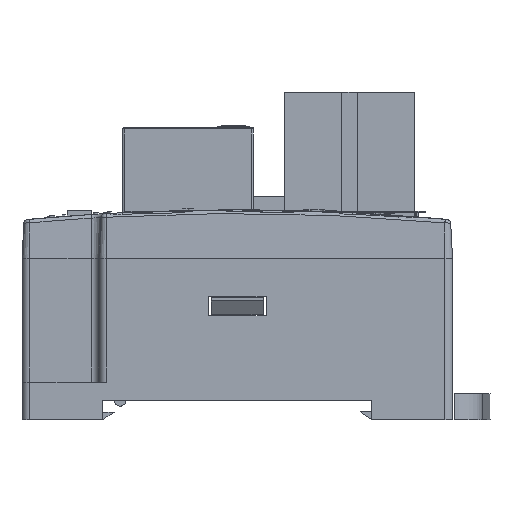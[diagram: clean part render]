
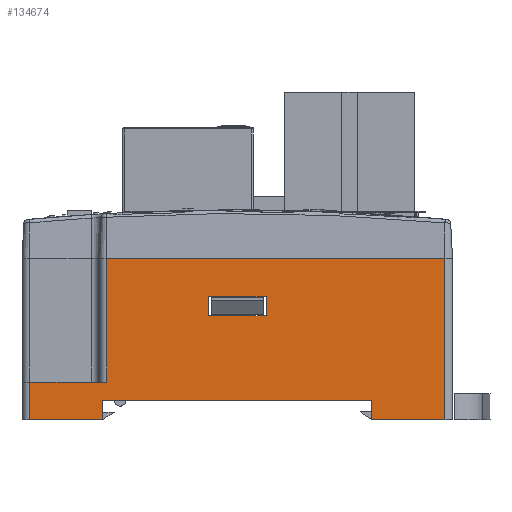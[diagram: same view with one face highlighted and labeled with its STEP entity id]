
A CAD part, left-side view. The second image highlights one B-rep face of the part: STEP entity #134674.
In plain terms, the highlighted planar face has unit normal (-1, 0, 0).
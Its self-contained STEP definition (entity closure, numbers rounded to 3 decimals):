
#12008=DIRECTION('',(0.,-1.,0.));
#12009=VECTOR('',#12008,7.5);
#12010=CARTESIAN_POINT('',(-60.,3.75,-11.3));
#12011=LINE('',#12010,#12009);
#12016=DIRECTION('',(0.,0.,1.));
#12017=VECTOR('',#12016,2.5);
#12018=CARTESIAN_POINT('',(-60.,3.75,-13.8));
#12019=LINE('',#12018,#12017);
#12024=DIRECTION('',(0.,1.,0.));
#12025=VECTOR('',#12024,7.5);
#12026=CARTESIAN_POINT('',(-60.,-3.75,-13.8));
#12027=LINE('',#12026,#12025);
#12032=DIRECTION('',(0.,0.,-1.));
#12033=VECTOR('',#12032,2.5);
#12034=CARTESIAN_POINT('',(-60.,-3.75,-11.3));
#12035=LINE('',#12034,#12033);
#12040=DIRECTION('',(0.,-1.,0.));
#12041=VECTOR('',#12040,9.5);
#12042=CARTESIAN_POINT('',(-60.,-17.5,-27.3));
#12043=LINE('',#12042,#12041);
#12044=DIRECTION('',(0.,-1.,0.));
#12045=VECTOR('',#12044,9.5);
#12046=CARTESIAN_POINT('',(-60.,27.,-27.3));
#12047=LINE('',#12046,#12045);
#12052=DIRECTION('',(0.,0.,-1.));
#12053=VECTOR('',#12052,21.);
#12054=CARTESIAN_POINT('',(-60.,-27.,-6.3));
#12055=LINE('',#12054,#12053);
#12069=DIRECTION('',(0.,-1.,0.));
#12070=VECTOR('',#12069,44.);
#12071=CARTESIAN_POINT('',(-60.,17.,-6.3));
#12072=LINE('',#12071,#12070);
#12111=DIRECTION('',(0.,0.,1.));
#12112=VECTOR('',#12111,16.1);
#12113=CARTESIAN_POINT('',(-60.,17.,-22.4));
#12114=LINE('',#12113,#12112);
#12138=DIRECTION('',(0.,-1.,0.));
#12139=VECTOR('',#12138,10.);
#12140=CARTESIAN_POINT('',(-60.,27.,-22.4));
#12141=LINE('',#12140,#12139);
#40388=DIRECTION('',(0.,0.,-1.));
#40389=VECTOR('',#40388,2.5);
#40390=CARTESIAN_POINT('',(-60.,-17.5,-24.8));
#40391=LINE('',#40390,#40389);
#40505=DIRECTION('',(0.,1.,0.));
#40506=VECTOR('',#40505,35.);
#40507=CARTESIAN_POINT('',(-60.,-17.5,-24.8));
#40508=LINE('',#40507,#40506);
#40521=DIRECTION('',(0.,0.,1.));
#40522=VECTOR('',#40521,2.5);
#40523=CARTESIAN_POINT('',(-60.,17.5,-27.3));
#40524=LINE('',#40523,#40522);
#40597=DIRECTION('',(0.,0.,1.));
#40598=VECTOR('',#40597,4.9);
#40599=CARTESIAN_POINT('',(-60.,27.,-27.3));
#40600=LINE('',#40599,#40598);
#106887=CARTESIAN_POINT('',(-60.,-27.,-27.3));
#106888=VERTEX_POINT('',#106887);
#106889=CARTESIAN_POINT('',(-60.,-17.5,-27.3));
#106890=VERTEX_POINT('',#106889);
#106917=CARTESIAN_POINT('',(-60.,17.5,-27.3));
#106918=VERTEX_POINT('',#106917);
#106919=CARTESIAN_POINT('',(-60.,27.,-27.3));
#106920=VERTEX_POINT('',#106919);
#106957=CARTESIAN_POINT('',(-60.,-17.5,-24.8));
#106958=CARTESIAN_POINT('',(-60.,17.5,-24.8));
#106959=VERTEX_POINT('',#106957);
#106960=VERTEX_POINT('',#106958);
#106961=CARTESIAN_POINT('',(-60.,27.,-22.4));
#106962=VERTEX_POINT('',#106961);
#106963=CARTESIAN_POINT('',(-60.,17.,-22.4));
#106964=VERTEX_POINT('',#106963);
#106965=CARTESIAN_POINT('',(-60.,-3.75,-11.3));
#106966=CARTESIAN_POINT('',(-60.,-3.75,-13.8));
#106967=VERTEX_POINT('',#106965);
#106968=VERTEX_POINT('',#106966);
#106969=CARTESIAN_POINT('',(-60.,3.75,-11.3));
#106970=VERTEX_POINT('',#106969);
#106971=CARTESIAN_POINT('',(-60.,3.75,-13.8));
#106972=VERTEX_POINT('',#106971);
#118083=CARTESIAN_POINT('',(-60.,17.,-6.3));
#118084=CARTESIAN_POINT('',(-60.,-27.,-6.3));
#118085=VERTEX_POINT('',#118083);
#118086=VERTEX_POINT('',#118084);
#134641=CARTESIAN_POINT('',(-60.,0.,-16.8));
#134642=DIRECTION('',(1.,0.,0.));
#134643=DIRECTION('',(0.,-1.,0.));
#134644=AXIS2_PLACEMENT_3D('',#134641,#134642,#134643);
#134645=PLANE('',#134644);
#134647=ORIENTED_EDGE('',*,*,#134646,.T.);
#134649=ORIENTED_EDGE('',*,*,#134648,.F.);
#134651=ORIENTED_EDGE('',*,*,#134650,.F.);
#134653=ORIENTED_EDGE('',*,*,#134652,.T.);
#134655=ORIENTED_EDGE('',*,*,#134654,.F.);
#134657=ORIENTED_EDGE('',*,*,#134656,.F.);
#134659=ORIENTED_EDGE('',*,*,#134658,.T.);
#134661=ORIENTED_EDGE('',*,*,#134660,.T.);
#134663=ORIENTED_EDGE('',*,*,#134662,.T.);
#134665=ORIENTED_EDGE('',*,*,#134664,.T.);
#134666=EDGE_LOOP('',(#134647,#134649,#134651,#134653,#134655,#134657,#134659,
#134661,#134663,#134665));
#134667=FACE_OUTER_BOUND('',#134666,.F.);
#134668=ORIENTED_EDGE('',*,*,#134628,.F.);
#134669=ORIENTED_EDGE('',*,*,#134561,.F.);
#134670=ORIENTED_EDGE('',*,*,#134587,.F.);
#134671=ORIENTED_EDGE('',*,*,#134608,.F.);
#134672=EDGE_LOOP('',(#134668,#134669,#134670,#134671));
#134673=FACE_BOUND('',#134672,.F.);
#134674=ADVANCED_FACE('',(#134667,#134673),#134645,.F.);
#134561=EDGE_CURVE('',#106970,#106967,#12011,.T.);
#134587=EDGE_CURVE('',#106972,#106970,#12019,.T.);
#134608=EDGE_CURVE('',#106968,#106972,#12027,.T.);
#134628=EDGE_CURVE('',#106967,#106968,#12035,.T.);
#134646=EDGE_CURVE('',#118086,#106888,#12055,.T.);
#134648=EDGE_CURVE('',#106890,#106888,#12043,.T.);
#134650=EDGE_CURVE('',#106959,#106890,#40391,.T.);
#134652=EDGE_CURVE('',#106959,#106960,#40508,.T.);
#134654=EDGE_CURVE('',#106918,#106960,#40524,.T.);
#134656=EDGE_CURVE('',#106920,#106918,#12047,.T.);
#134658=EDGE_CURVE('',#106920,#106962,#40600,.T.);
#134660=EDGE_CURVE('',#106962,#106964,#12141,.T.);
#134662=EDGE_CURVE('',#106964,#118085,#12114,.T.);
#134664=EDGE_CURVE('',#118085,#118086,#12072,.T.);
